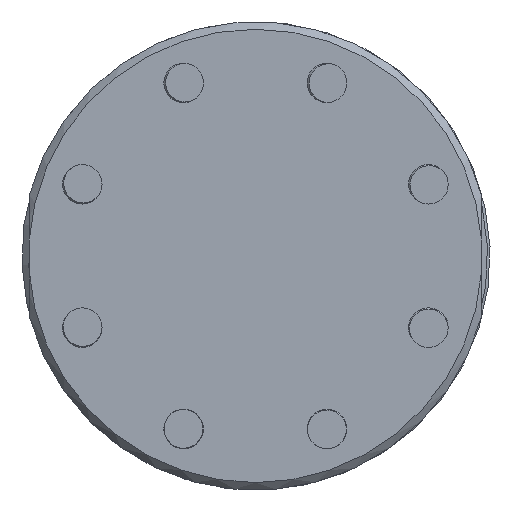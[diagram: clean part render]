
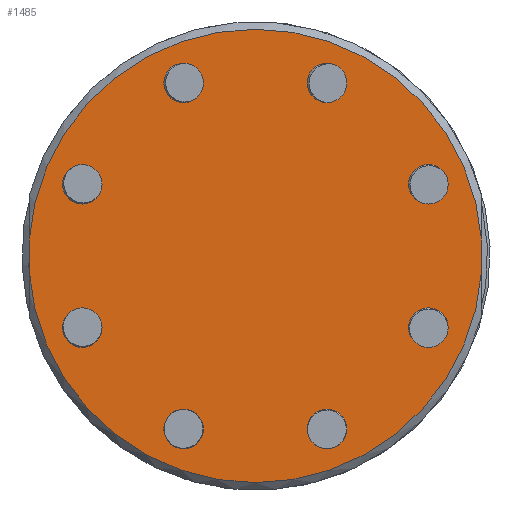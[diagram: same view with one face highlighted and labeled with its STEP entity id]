
A CAD part, front view. The second image highlights one B-rep face of the part: STEP entity #1485.
In plain terms, the highlighted planar face has unit normal (0, -1, 0).
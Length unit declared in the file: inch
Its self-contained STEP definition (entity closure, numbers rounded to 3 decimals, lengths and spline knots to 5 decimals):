
#67=LINE('',#2432,#103);
#69=LINE('',#2447,#105);
#103=VECTOR('',#1948,0.17031);
#105=VECTOR('',#1956,0.17031);
#213=PLANE('',#1638);
#279=FACE_BOUND('',#523,.T.);
#280=FACE_BOUND('',#524,.T.);
#281=FACE_BOUND('',#525,.T.);
#282=FACE_BOUND('',#526,.T.);
#283=FACE_BOUND('',#527,.T.);
#284=FACE_BOUND('',#528,.T.);
#285=FACE_BOUND('',#529,.T.);
#286=FACE_BOUND('',#530,.T.);
#384=FACE_OUTER_BOUND('',#522,.T.);
#522=EDGE_LOOP('',(#1166,#1167,#1168,#1169));
#523=EDGE_LOOP('',(#1170));
#524=EDGE_LOOP('',(#1171));
#525=EDGE_LOOP('',(#1172));
#526=EDGE_LOOP('',(#1173));
#527=EDGE_LOOP('',(#1174));
#528=EDGE_LOOP('',(#1175));
#529=EDGE_LOOP('',(#1176));
#530=EDGE_LOOP('',(#1177));
#693=CIRCLE('',#1612,0.1055);
#695=CIRCLE('',#1615,0.1055);
#697=CIRCLE('',#1618,0.1055);
#699=CIRCLE('',#1621,0.1055);
#701=CIRCLE('',#1624,0.1055);
#703=CIRCLE('',#1627,0.1055);
#705=CIRCLE('',#1630,0.1055);
#707=CIRCLE('',#1633,0.1055);
#709=CIRCLE('',#1639,1.21);
#710=CIRCLE('',#1640,1.21);
#800=VERTEX_POINT('',#2359);
#802=VERTEX_POINT('',#2364);
#804=VERTEX_POINT('',#2369);
#806=VERTEX_POINT('',#2374);
#808=VERTEX_POINT('',#2379);
#810=VERTEX_POINT('',#2384);
#812=VERTEX_POINT('',#2389);
#814=VERTEX_POINT('',#2394);
#821=VERTEX_POINT('',#2413);
#825=VERTEX_POINT('',#2428);
#828=VERTEX_POINT('',#2444);
#829=VERTEX_POINT('',#2446);
#941=EDGE_CURVE('',#800,#800,#693,.T.);
#943=EDGE_CURVE('',#802,#802,#695,.T.);
#945=EDGE_CURVE('',#804,#804,#697,.T.);
#947=EDGE_CURVE('',#806,#806,#699,.T.);
#949=EDGE_CURVE('',#808,#808,#701,.T.);
#951=EDGE_CURVE('',#810,#810,#703,.T.);
#953=EDGE_CURVE('',#812,#812,#705,.T.);
#955=EDGE_CURVE('',#814,#814,#707,.T.);
#967=EDGE_CURVE('',#821,#825,#67,.T.);
#971=EDGE_CURVE('',#828,#825,#709,.T.);
#972=EDGE_CURVE('',#828,#829,#69,.T.);
#973=EDGE_CURVE('',#821,#829,#710,.T.);
#1166=ORIENTED_EDGE('',*,*,#967,.T.);
#1167=ORIENTED_EDGE('',*,*,#971,.F.);
#1168=ORIENTED_EDGE('',*,*,#972,.T.);
#1169=ORIENTED_EDGE('',*,*,#973,.F.);
#1170=ORIENTED_EDGE('',*,*,#941,.T.);
#1171=ORIENTED_EDGE('',*,*,#943,.T.);
#1172=ORIENTED_EDGE('',*,*,#945,.T.);
#1173=ORIENTED_EDGE('',*,*,#947,.T.);
#1174=ORIENTED_EDGE('',*,*,#949,.T.);
#1175=ORIENTED_EDGE('',*,*,#951,.T.);
#1176=ORIENTED_EDGE('',*,*,#953,.T.);
#1177=ORIENTED_EDGE('',*,*,#955,.T.);
#1485=ADVANCED_FACE('',(#384,#279,#280,#281,#282,#283,#284,#285,#286),#213,
 .T.);
#1612=AXIS2_PLACEMENT_3D('',#2360,#1894,#1895);
#1615=AXIS2_PLACEMENT_3D('',#2365,#1900,#1901);
#1618=AXIS2_PLACEMENT_3D('',#2370,#1906,#1907);
#1621=AXIS2_PLACEMENT_3D('',#2375,#1912,#1913);
#1624=AXIS2_PLACEMENT_3D('',#2380,#1918,#1919);
#1627=AXIS2_PLACEMENT_3D('',#2385,#1924,#1925);
#1630=AXIS2_PLACEMENT_3D('',#2390,#1930,#1931);
#1633=AXIS2_PLACEMENT_3D('',#2395,#1936,#1937);
#1638=AXIS2_PLACEMENT_3D('',#2443,#1952,#1953);
#1639=AXIS2_PLACEMENT_3D('',#2445,#1954,#1955);
#1640=AXIS2_PLACEMENT_3D('',#2448,#1957,#1958);
#1894=DIRECTION('center_axis',(0.,1.,0.));
#1895=DIRECTION('ref_axis',(1.,0.,0.));
#1900=DIRECTION('center_axis',(0.,1.,0.));
#1901=DIRECTION('ref_axis',(1.,0.,0.));
#1906=DIRECTION('center_axis',(0.,1.,0.));
#1907=DIRECTION('ref_axis',(1.,0.,0.));
#1912=DIRECTION('center_axis',(0.,1.,0.));
#1913=DIRECTION('ref_axis',(1.,0.,0.));
#1918=DIRECTION('center_axis',(0.,1.,0.));
#1919=DIRECTION('ref_axis',(1.,0.,0.));
#1924=DIRECTION('center_axis',(0.,1.,0.));
#1925=DIRECTION('ref_axis',(1.,0.,0.));
#1930=DIRECTION('center_axis',(0.,1.,0.));
#1931=DIRECTION('ref_axis',(1.,0.,0.));
#1936=DIRECTION('center_axis',(0.,1.,0.));
#1937=DIRECTION('ref_axis',(1.,0.,0.));
#1948=DIRECTION('',(0.,0.,1.));
#1952=DIRECTION('center_axis',(0.,-1.,0.));
#1953=DIRECTION('ref_axis',(0.,0.,-1.));
#1954=DIRECTION('center_axis',(0.,1.,0.));
#1955=DIRECTION('ref_axis',(1.,0.,0.));
#1956=DIRECTION('',(0.,0.,-1.));
#1957=DIRECTION('center_axis',(0.,1.,0.));
#1958=DIRECTION('ref_axis',(1.,0.,0.));
#2359=CARTESIAN_POINT('',(0.81838,-0.425,0.38268));
#2360=CARTESIAN_POINT('Origin',(0.92388,-0.425,0.38268));
#2364=CARTESIAN_POINT('',(0.81838,-0.425,-0.38268));
#2365=CARTESIAN_POINT('Origin',(0.92388,-0.425,-0.38268));
#2369=CARTESIAN_POINT('',(0.27718,-0.425,-0.92388));
#2370=CARTESIAN_POINT('Origin',(0.38268,-0.425,-0.92388));
#2374=CARTESIAN_POINT('',(-0.48818,-0.425,-0.92388));
#2375=CARTESIAN_POINT('Origin',(-0.38268,-0.425,-0.92388));
#2379=CARTESIAN_POINT('',(-1.02938,-0.425,-0.38268));
#2380=CARTESIAN_POINT('Origin',(-0.92388,-0.425,-0.38268));
#2384=CARTESIAN_POINT('',(-1.02938,-0.425,0.38268));
#2385=CARTESIAN_POINT('Origin',(-0.92388,-0.425,0.38268));
#2389=CARTESIAN_POINT('',(-0.48818,-0.425,0.92388));
#2390=CARTESIAN_POINT('Origin',(-0.38268,-0.425,0.92388));
#2394=CARTESIAN_POINT('',(0.27718,-0.425,0.92388));
#2395=CARTESIAN_POINT('Origin',(0.38268,-0.425,0.92388));
#2413=CARTESIAN_POINT('',(1.207,-0.425,-0.08515));
#2428=CARTESIAN_POINT('',(1.207,-0.425,0.08515));
#2432=CARTESIAN_POINT('',(1.207,-0.425,0.));
#2443=CARTESIAN_POINT('Origin',(0.,-0.425,0.));
#2444=CARTESIAN_POINT('',(-1.207,-0.425,0.08515));
#2445=CARTESIAN_POINT('Origin',(0.,-0.425,0.));
#2446=CARTESIAN_POINT('',(-1.207,-0.425,-0.08515));
#2447=CARTESIAN_POINT('',(-1.207,-0.425,0.));
#2448=CARTESIAN_POINT('Origin',(0.,-0.425,0.));
